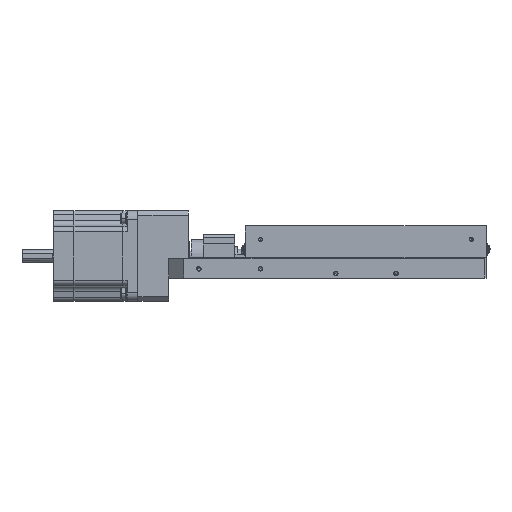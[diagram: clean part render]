
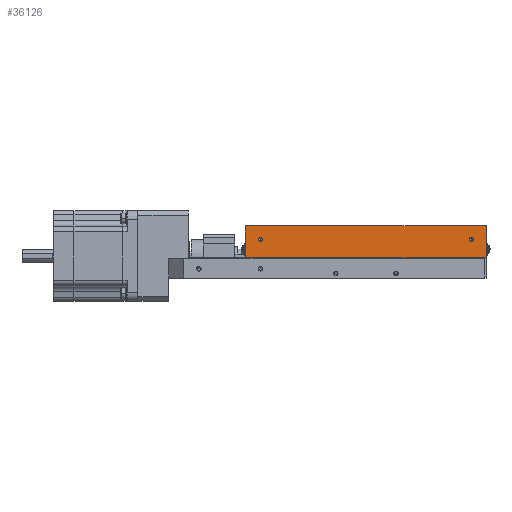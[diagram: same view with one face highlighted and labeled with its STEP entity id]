
A CAD part, front view. The second image highlights one B-rep face of the part: STEP entity #36126.
In plain terms, the highlighted planar face has unit normal (0, -1, 0).
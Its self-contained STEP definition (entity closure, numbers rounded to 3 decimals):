
#20 = CIRCLE ( 'NONE', #7752, 1.3 ) ;
#492 = DIRECTION ( 'NONE',  ( 0., -1., 0. ) ) ;
#1357 = EDGE_CURVE ( 'NONE', #56853, #25356, #37648, .T. ) ;
#2498 = AXIS2_PLACEMENT_3D ( 'NONE', #61829, #13902, #62042 ) ;
#4673 = ORIENTED_EDGE ( 'NONE', *, *, #1357, .F. ) ;
#4711 = VERTEX_POINT ( 'NONE', #58946 ) ;
#5069 = CARTESIAN_POINT ( 'NONE',  ( 60.671, -238.894, 291.845 ) ) ;
#5820 = EDGE_LOOP ( 'NONE', ( #52069, #4673, #11316, #29531 ) ) ;
#6494 = DIRECTION ( 'NONE',  ( 0., 0., 1. ) ) ;
#6740 = AXIS2_PLACEMENT_3D ( 'NONE', #17541, #22291, #28340 ) ;
#6744 = VERTEX_POINT ( 'NONE', #12625 ) ;
#7598 = EDGE_CURVE ( 'NONE', #56853, #41480, #18568, .T. ) ;
#7752 = AXIS2_PLACEMENT_3D ( 'NONE', #11755, #492, #60146 ) ;
#8422 = DIRECTION ( 'NONE',  ( -1., 0., 0. ) ) ;
#8861 = CIRCLE ( 'NONE', #6740, 1.3 ) ;
#9613 = EDGE_CURVE ( 'NONE', #25356, #4711, #56147, .T. ) ;
#10543 = CARTESIAN_POINT ( 'NONE',  ( 210.473, -238.894, 281.13 ) ) ;
#11316 = ORIENTED_EDGE ( 'NONE', *, *, #7598, .T. ) ;
#11473 = DIRECTION ( 'NONE',  ( -1., 0., 0. ) ) ;
#11755 = CARTESIAN_POINT ( 'NONE',  ( 60.473, -238.894, 293.13 ) ) ;
#12625 = CARTESIAN_POINT ( 'NONE',  ( 60.275, -238.894, 294.414 ) ) ;
#13902 = DIRECTION ( 'NONE',  ( 0., -1., 0. ) ) ;
#15472 = EDGE_LOOP ( 'NONE', ( #62700, #58942 ) ) ;
#15980 = FACE_BOUND ( 'NONE', #51080, .T. ) ;
#16695 = EDGE_CURVE ( 'NONE', #41480, #4711, #54970, .T. ) ;
#17163 = VERTEX_POINT ( 'NONE', #5069 ) ;
#17532 = CARTESIAN_POINT ( 'NONE',  ( 200.498, -238.894, 294.429 ) ) ;
#17541 = CARTESIAN_POINT ( 'NONE',  ( 200.473, -238.894, 293.13 ) ) ;
#17929 = CARTESIAN_POINT ( 'NONE',  ( 200.448, -238.894, 291.83 ) ) ;
#18568 = LINE ( 'NONE', #10543, #64826 ) ;
#19206 = CARTESIAN_POINT ( 'NONE',  ( 210.473, -238.894, 302.13 ) ) ;
#22291 = DIRECTION ( 'NONE',  ( 0., -1., 0. ) ) ;
#24113 = CIRCLE ( 'NONE', #26266, 1.3 ) ;
#25356 = VERTEX_POINT ( 'NONE', #55100 ) ;
#25511 = EDGE_CURVE ( 'NONE', #6744, #17163, #24113, .T. ) ;
#26266 = AXIS2_PLACEMENT_3D ( 'NONE', #55577, #50421, #45252 ) ;
#28340 = DIRECTION ( 'NONE',  ( 0.019, 0., 1. ) ) ;
#29531 = ORIENTED_EDGE ( 'NONE', *, *, #16695, .T. ) ;
#32271 = VECTOR ( 'NONE', #11473, 1000. ) ;
#33020 = CARTESIAN_POINT ( 'NONE',  ( 50.473, -238.894, 281.13 ) ) ;
#34784 = PLANE ( 'NONE',  #2498 ) ;
#36126 = ADVANCED_FACE ( 'NONE', ( #51344, #15980, #49638 ), #34784, .T. ) ;
#37648 = LINE ( 'NONE', #62174, #41005 ) ;
#40342 = VERTEX_POINT ( 'NONE', #17929 ) ;
#40882 = CARTESIAN_POINT ( 'NONE',  ( 200.473, -238.894, 293.13 ) ) ;
#41005 = VECTOR ( 'NONE', #8422, 1000. ) ;
#41480 = VERTEX_POINT ( 'NONE', #19206 ) ;
#45252 = DIRECTION ( 'NONE',  ( -0.152, 0., 0.988 ) ) ;
#46501 = CIRCLE ( 'NONE', #58788, 1.3 ) ;
#49638 = FACE_OUTER_BOUND ( 'NONE', #5820, .T. ) ;
#50421 = DIRECTION ( 'NONE',  ( 0., -1., 0. ) ) ;
#51080 = EDGE_LOOP ( 'NONE', ( #62187, #66015 ) ) ;
#51344 = FACE_BOUND ( 'NONE', #15472, .T. ) ;
#51733 = DIRECTION ( 'NONE',  ( 0.019, 0., 1. ) ) ;
#52069 = ORIENTED_EDGE ( 'NONE', *, *, #9613, .F. ) ;
#54970 = LINE ( 'NONE', #65012, #32271 ) ;
#55100 = CARTESIAN_POINT ( 'NONE',  ( 50.473, -238.894, 281.13 ) ) ;
#55577 = CARTESIAN_POINT ( 'NONE',  ( 60.473, -238.894, 293.13 ) ) ;
#56147 = LINE ( 'NONE', #33020, #62956 ) ;
#56853 = VERTEX_POINT ( 'NONE', #68353 ) ;
#56879 = EDGE_CURVE ( 'NONE', #58399, #40342, #46501, .T. ) ;
#58399 = VERTEX_POINT ( 'NONE', #17532 ) ;
#58788 = AXIS2_PLACEMENT_3D ( 'NONE', #40882, #67885, #51733 ) ;
#58942 = ORIENTED_EDGE ( 'NONE', *, *, #67915, .F. ) ;
#58946 = CARTESIAN_POINT ( 'NONE',  ( 50.473, -238.894, 302.13 ) ) ;
#60146 = DIRECTION ( 'NONE',  ( -0.152, 0., 0.988 ) ) ;
#61356 = EDGE_CURVE ( 'NONE', #17163, #6744, #20, .T. ) ;
#61829 = CARTESIAN_POINT ( 'NONE',  ( 210.473, -238.894, 281.13 ) ) ;
#62042 = DIRECTION ( 'NONE',  ( -1., 0., 0. ) ) ;
#62174 = CARTESIAN_POINT ( 'NONE',  ( 210.473, -238.894, 281.13 ) ) ;
#62187 = ORIENTED_EDGE ( 'NONE', *, *, #25511, .F. ) ;
#62700 = ORIENTED_EDGE ( 'NONE', *, *, #56879, .F. ) ;
#62956 = VECTOR ( 'NONE', #6494, 1000. ) ;
#64826 = VECTOR ( 'NONE', #69715, 1000. ) ;
#65012 = CARTESIAN_POINT ( 'NONE',  ( 210.473, -238.894, 302.13 ) ) ;
#66015 = ORIENTED_EDGE ( 'NONE', *, *, #61356, .F. ) ;
#67885 = DIRECTION ( 'NONE',  ( 0., -1., 0. ) ) ;
#67915 = EDGE_CURVE ( 'NONE', #40342, #58399, #8861, .T. ) ;
#68353 = CARTESIAN_POINT ( 'NONE',  ( 210.473, -238.894, 281.13 ) ) ;
#69715 = DIRECTION ( 'NONE',  ( 0., 0., 1. ) ) ;
